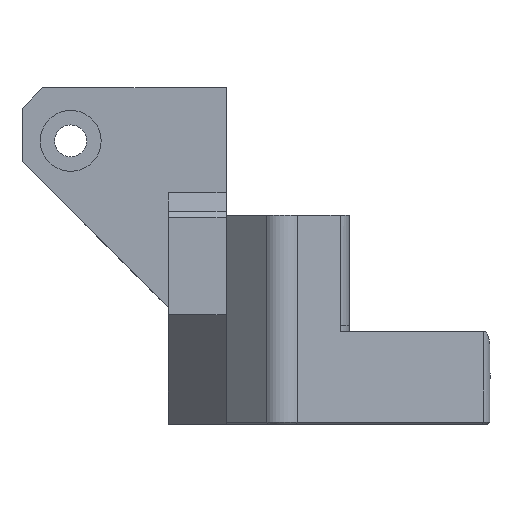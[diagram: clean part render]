
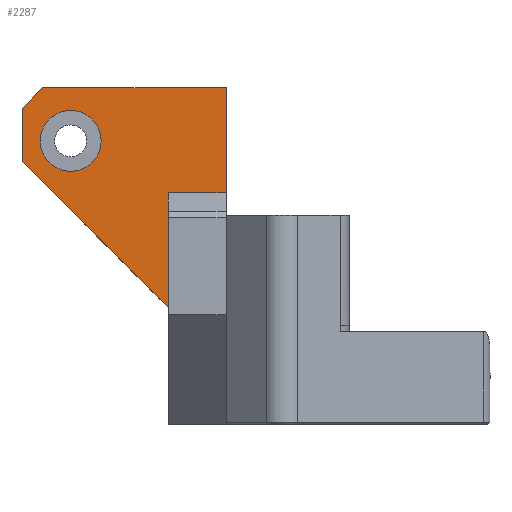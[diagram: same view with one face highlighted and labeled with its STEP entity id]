
A CAD part, left-side view. The second image highlights one B-rep face of the part: STEP entity #2287.
In plain terms, the highlighted planar face has unit normal (-1, 0, 0).
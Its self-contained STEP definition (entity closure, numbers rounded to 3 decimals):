
#42=FACE_BOUND('',#823,.T.);
#124=CIRCLE('',#2455,3.);
#172=LINE('',#3956,#381);
#258=LINE('',#4708,#467);
#275=LINE('',#5180,#484);
#283=LINE('',#5203,#492);
#285=LINE('',#5206,#494);
#287=LINE('',#5212,#496);
#288=LINE('',#5213,#497);
#289=LINE('',#5214,#498);
#290=LINE('',#5216,#499);
#291=LINE('',#5217,#500);
#381=VECTOR('',#2583,10.);
#467=VECTOR('',#2759,10.);
#484=VECTOR('',#2830,10.);
#492=VECTOR('',#2856,10.);
#494=VECTOR('',#2860,10.);
#496=VECTOR('',#2866,10.);
#497=VECTOR('',#2867,10.);
#498=VECTOR('',#2868,10.);
#499=VECTOR('',#2869,10.);
#500=VECTOR('',#2870,10.);
#594=PLANE('',#2454);
#685=FACE_OUTER_BOUND('',#822,.T.);
#822=EDGE_LOOP('',(#1931,#1932,#1933,#1934,#1935,#1936,#1937,#1938,#1939,
#1940));
#823=EDGE_LOOP('',(#1941));
#1002=VERTEX_POINT('',#3953);
#1003=VERTEX_POINT('',#3955);
#1106=VERTEX_POINT('',#4705);
#1107=VERTEX_POINT('',#4707);
#1133=VERTEX_POINT('',#5176);
#1134=VERTEX_POINT('',#5178);
#1139=VERTEX_POINT('',#5200);
#1140=VERTEX_POINT('',#5202);
#1142=VERTEX_POINT('',#5211);
#1143=VERTEX_POINT('',#5215);
#1144=VERTEX_POINT('',#5218);
#1237=EDGE_CURVE('',#1002,#1003,#172,.T.);
#1368=EDGE_CURVE('',#1107,#1106,#258,.T.);
#1418=EDGE_CURVE('',#1134,#1133,#275,.T.);
#1428=EDGE_CURVE('',#1139,#1140,#283,.T.);
#1430=EDGE_CURVE('',#1106,#1140,#285,.T.);
#1433=EDGE_CURVE('',#1139,#1142,#287,.F.);
#1434=EDGE_CURVE('',#1142,#1003,#288,.T.);
#1435=EDGE_CURVE('',#1133,#1002,#289,.T.);
#1436=EDGE_CURVE('',#1134,#1143,#290,.T.);
#1437=EDGE_CURVE('',#1143,#1107,#291,.T.);
#1438=EDGE_CURVE('',#1144,#1144,#124,.T.);
#1931=ORIENTED_EDGE('',*,*,#1428,.F.);
#1932=ORIENTED_EDGE('',*,*,#1433,.T.);
#1933=ORIENTED_EDGE('',*,*,#1434,.T.);
#1934=ORIENTED_EDGE('',*,*,#1237,.F.);
#1935=ORIENTED_EDGE('',*,*,#1435,.F.);
#1936=ORIENTED_EDGE('',*,*,#1418,.F.);
#1937=ORIENTED_EDGE('',*,*,#1436,.T.);
#1938=ORIENTED_EDGE('',*,*,#1437,.T.);
#1939=ORIENTED_EDGE('',*,*,#1368,.T.);
#1940=ORIENTED_EDGE('',*,*,#1430,.T.);
#1941=ORIENTED_EDGE('',*,*,#1438,.T.);
#2287=ADVANCED_FACE('',(#685,#42),#594,.T.);
#2454=AXIS2_PLACEMENT_3D('',#5210,#2864,#2865);
#2455=AXIS2_PLACEMENT_3D('',#5219,#2871,#2872);
#2583=DIRECTION('',(0.,0.,-1.));
#2759=DIRECTION('',(0.,1.,0.));
#2830=DIRECTION('',(0.,0.,-1.));
#2856=DIRECTION('',(0.,-0.707,0.707));
#2860=DIRECTION('',(0.,1.,0.));
#2864=DIRECTION('center_axis',(-1.,0.,0.));
#2865=DIRECTION('ref_axis',(0.,0.,
1.));
#2866=DIRECTION('',(0.,0.,1.));
#2867=DIRECTION('',(0.,-0.707,-0.707));
#2868=DIRECTION('',(0.,1.,0.));
#2869=DIRECTION('',(0.,0.,1.));
#2870=DIRECTION('',(0.,0.,1.));
#2871=DIRECTION('center_axis',(1.,0.,0.));
#2872=DIRECTION('ref_axis',(0.,0.,1.));
#3953=CARTESIAN_POINT('',(7.216,50.774,-12.831));
#3955=CARTESIAN_POINT('',(7.216,50.774,-24.164));
#3956=CARTESIAN_POINT('',(7.216,50.774,-18.909));
#4705=CARTESIAN_POINT('',(7.216,50.774,-2.513));
#4707=CARTESIAN_POINT('',(7.216,45.074,-2.513));
#4708=CARTESIAN_POINT('',(7.216,47.924,-2.513));
#5176=CARTESIAN_POINT('',(7.216,45.074,-12.831));
#5178=CARTESIAN_POINT('',(7.216,45.074,-12.164));
#5180=CARTESIAN_POINT('',(7.216,45.074,-12.164));
#5200=CARTESIAN_POINT('',(7.216,65.174,-4.513));
#5202=CARTESIAN_POINT('',(7.216,63.174,-2.513));
#5203=CARTESIAN_POINT('',(7.216,62.987,-2.326));
#5206=CARTESIAN_POINT('',(7.216,50.774,-2.513));
#5210=CARTESIAN_POINT('Origin',(7.216,50.774,-12.164));
#5211=CARTESIAN_POINT('',(7.216,65.174,-9.764));
#5212=CARTESIAN_POINT('',(7.216,65.174,-9.751));
#5213=CARTESIAN_POINT('',(7.216,56.774,-18.164));
#5214=CARTESIAN_POINT('',(7.216,47.924,-12.831));
#5215=CARTESIAN_POINT('',(7.216,45.074,-10.951));
#5216=CARTESIAN_POINT('',(7.216,45.074,-11.557));
#5217=CARTESIAN_POINT('',(7.216,45.074,-10.567));
#5218=CARTESIAN_POINT('',(7.216,60.383,-10.738));
#5219=CARTESIAN_POINT('Origin',(7.216,60.383,-7.738));
